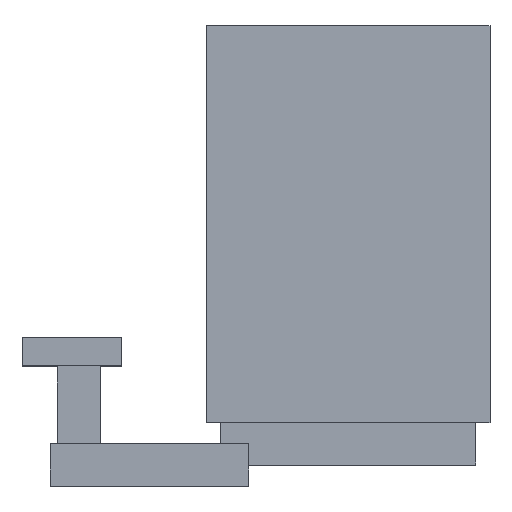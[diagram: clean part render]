
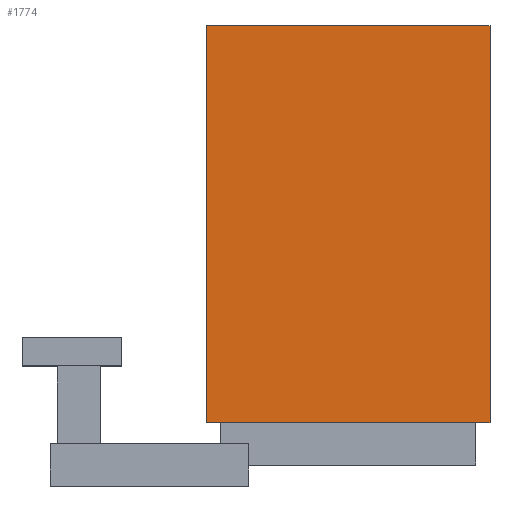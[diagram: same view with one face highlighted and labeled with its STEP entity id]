
A CAD part, top view. The second image highlights one B-rep face of the part: STEP entity #1774.
In plain terms, the highlighted planar face has unit normal (0, 0, 1).
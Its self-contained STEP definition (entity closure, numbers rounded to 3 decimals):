
#113 = VERTEX_POINT('',#114);
#114 = CARTESIAN_POINT('',(28.,9.,12.5));
#128 = PLANE('',#129);
#129 = AXIS2_PLACEMENT_3D('',#130,#131,#132);
#130 = CARTESIAN_POINT('',(26.,9.,8.));
#131 = DIRECTION('',(0.,-1.,0.));
#132 = DIRECTION('',(1.,0.,0.));
#156 = PLANE('',#157);
#157 = AXIS2_PLACEMENT_3D('',#158,#159,#160);
#158 = CARTESIAN_POINT('',(28.,9.,4.));
#159 = DIRECTION('',(0.,-1.,0.));
#160 = DIRECTION('',(1.,0.,0.));
#910 = EDGE_CURVE('',#113,#911,#913,.T.);
#911 = VERTEX_POINT('',#912);
#912 = CARTESIAN_POINT('',(64.,9.,12.5));
#913 = SURFACE_CURVE('',#914,(#918,#925),.PCURVE_S1.);
#914 = LINE('',#915,#916);
#915 = CARTESIAN_POINT('',(26.,9.,12.5));
#916 = VECTOR('',#917,1.);
#917 = DIRECTION('',(1.,0.,0.));
#918 = PCURVE('',#156,#919);
#919 = DEFINITIONAL_REPRESENTATION('',(#920),#924);
#920 = LINE('',#921,#922);
#921 = CARTESIAN_POINT('',(-2.,8.5));
#922 = VECTOR('',#923,1.);
#923 = DIRECTION('',(1.,0.));
#924 = ( GEOMETRIC_REPRESENTATION_CONTEXT(2) 
PARAMETRIC_REPRESENTATION_CONTEXT() REPRESENTATION_CONTEXT('2D SPACE',''
  ) );
#925 = PCURVE('',#926,#931);
#926 = PLANE('',#927);
#927 = AXIS2_PLACEMENT_3D('',#928,#929,#930);
#928 = CARTESIAN_POINT('',(26.,65.,12.5));
#929 = DIRECTION('',(0.,0.,1.));
#930 = DIRECTION('',(0.,-1.,0.));
#931 = DEFINITIONAL_REPRESENTATION('',(#932),#936);
#932 = LINE('',#933,#934);
#933 = CARTESIAN_POINT('',(56.,0.));
#934 = VECTOR('',#935,1.);
#935 = DIRECTION('',(0.,1.));
#936 = ( GEOMETRIC_REPRESENTATION_CONTEXT(2) 
PARAMETRIC_REPRESENTATION_CONTEXT() REPRESENTATION_CONTEXT('2D SPACE',''
  ) );
#1023 = EDGE_CURVE('',#1024,#113,#1026,.T.);
#1024 = VERTEX_POINT('',#1025);
#1025 = CARTESIAN_POINT('',(26.,9.,12.5));
#1026 = SURFACE_CURVE('',#1027,(#1031,#1038),.PCURVE_S1.);
#1027 = LINE('',#1028,#1029);
#1028 = CARTESIAN_POINT('',(26.,9.,12.5));
#1029 = VECTOR('',#1030,1.);
#1030 = DIRECTION('',(1.,0.,0.));
#1031 = PCURVE('',#128,#1032);
#1032 = DEFINITIONAL_REPRESENTATION('',(#1033),#1037);
#1033 = LINE('',#1034,#1035);
#1034 = CARTESIAN_POINT('',(0.,4.5));
#1035 = VECTOR('',#1036,1.);
#1036 = DIRECTION('',(1.,0.));
#1037 = ( GEOMETRIC_REPRESENTATION_CONTEXT(2) 
PARAMETRIC_REPRESENTATION_CONTEXT() REPRESENTATION_CONTEXT('2D SPACE',''
  ) );
#1038 = PCURVE('',#926,#1039);
#1039 = DEFINITIONAL_REPRESENTATION('',(#1040),#1044);
#1040 = LINE('',#1041,#1042);
#1041 = CARTESIAN_POINT('',(56.,0.));
#1042 = VECTOR('',#1043,1.);
#1043 = DIRECTION('',(0.,1.));
#1044 = ( GEOMETRIC_REPRESENTATION_CONTEXT(2) 
PARAMETRIC_REPRESENTATION_CONTEXT() REPRESENTATION_CONTEXT('2D SPACE',''
  ) );
#1062 = PLANE('',#1063);
#1063 = AXIS2_PLACEMENT_3D('',#1064,#1065,#1066);
#1064 = CARTESIAN_POINT('',(26.,65.,8.));
#1065 = DIRECTION('',(1.,0.,0.));
#1066 = DIRECTION('',(0.,-1.,0.));
#1398 = PLANE('',#1399);
#1399 = AXIS2_PLACEMENT_3D('',#1400,#1401,#1402);
#1400 = CARTESIAN_POINT('',(26.,9.,8.));
#1401 = DIRECTION('',(0.,-1.,0.));
#1402 = DIRECTION('',(1.,0.,0.));
#1774 = ADVANCED_FACE('',(#1775),#926,.T.);
#1775 = FACE_BOUND('',#1776,.T.);
#1776 = EDGE_LOOP('',(#1777,#1807,#1828,#1829,#1830,#1853));
#1777 = ORIENTED_EDGE('',*,*,#1778,.F.);
#1778 = EDGE_CURVE('',#1779,#1781,#1783,.T.);
#1779 = VERTEX_POINT('',#1780);
#1780 = CARTESIAN_POINT('',(26.,65.,12.5));
#1781 = VERTEX_POINT('',#1782);
#1782 = CARTESIAN_POINT('',(66.,65.,12.5));
#1783 = SURFACE_CURVE('',#1784,(#1788,#1795),.PCURVE_S1.);
#1784 = LINE('',#1785,#1786);
#1785 = CARTESIAN_POINT('',(26.,65.,12.5));
#1786 = VECTOR('',#1787,1.);
#1787 = DIRECTION('',(1.,0.,0.));
#1788 = PCURVE('',#926,#1789);
#1789 = DEFINITIONAL_REPRESENTATION('',(#1790),#1794);
#1790 = LINE('',#1791,#1792);
#1791 = CARTESIAN_POINT('',(0.,0.));
#1792 = VECTOR('',#1793,1.);
#1793 = DIRECTION('',(0.,1.));
#1794 = ( GEOMETRIC_REPRESENTATION_CONTEXT(2) 
PARAMETRIC_REPRESENTATION_CONTEXT() REPRESENTATION_CONTEXT('2D SPACE',''
  ) );
#1795 = PCURVE('',#1796,#1801);
#1796 = PLANE('',#1797);
#1797 = AXIS2_PLACEMENT_3D('',#1798,#1799,#1800);
#1798 = CARTESIAN_POINT('',(26.,65.,8.));
#1799 = DIRECTION('',(0.,-1.,0.));
#1800 = DIRECTION('',(1.,0.,0.));
#1801 = DEFINITIONAL_REPRESENTATION('',(#1802),#1806);
#1802 = LINE('',#1803,#1804);
#1803 = CARTESIAN_POINT('',(0.,4.5));
#1804 = VECTOR('',#1805,1.);
#1805 = DIRECTION('',(1.,0.));
#1806 = ( GEOMETRIC_REPRESENTATION_CONTEXT(2) 
PARAMETRIC_REPRESENTATION_CONTEXT() REPRESENTATION_CONTEXT('2D SPACE',''
  ) );
#1807 = ORIENTED_EDGE('',*,*,#1808,.T.);
#1808 = EDGE_CURVE('',#1779,#1024,#1809,.T.);
#1809 = SURFACE_CURVE('',#1810,(#1814,#1821),.PCURVE_S1.);
#1810 = LINE('',#1811,#1812);
#1811 = CARTESIAN_POINT('',(26.,65.,12.5));
#1812 = VECTOR('',#1813,1.);
#1813 = DIRECTION('',(0.,-1.,0.));
#1814 = PCURVE('',#926,#1815);
#1815 = DEFINITIONAL_REPRESENTATION('',(#1816),#1820);
#1816 = LINE('',#1817,#1818);
#1817 = CARTESIAN_POINT('',(0.,0.));
#1818 = VECTOR('',#1819,1.);
#1819 = DIRECTION('',(1.,0.));
#1820 = ( GEOMETRIC_REPRESENTATION_CONTEXT(2) 
PARAMETRIC_REPRESENTATION_CONTEXT() REPRESENTATION_CONTEXT('2D SPACE',''
  ) );
#1821 = PCURVE('',#1062,#1822);
#1822 = DEFINITIONAL_REPRESENTATION('',(#1823),#1827);
#1823 = LINE('',#1824,#1825);
#1824 = CARTESIAN_POINT('',(0.,-4.5));
#1825 = VECTOR('',#1826,1.);
#1826 = DIRECTION('',(1.,0.));
#1827 = ( GEOMETRIC_REPRESENTATION_CONTEXT(2) 
PARAMETRIC_REPRESENTATION_CONTEXT() REPRESENTATION_CONTEXT('2D SPACE',''
  ) );
#1828 = ORIENTED_EDGE('',*,*,#1023,.T.);
#1829 = ORIENTED_EDGE('',*,*,#910,.T.);
#1830 = ORIENTED_EDGE('',*,*,#1831,.T.);
#1831 = EDGE_CURVE('',#911,#1832,#1834,.T.);
#1832 = VERTEX_POINT('',#1833);
#1833 = CARTESIAN_POINT('',(66.,9.,12.5));
#1834 = SURFACE_CURVE('',#1835,(#1839,#1846),.PCURVE_S1.);
#1835 = LINE('',#1836,#1837);
#1836 = CARTESIAN_POINT('',(26.,9.,12.5));
#1837 = VECTOR('',#1838,1.);
#1838 = DIRECTION('',(1.,0.,0.));
#1839 = PCURVE('',#926,#1840);
#1840 = DEFINITIONAL_REPRESENTATION('',(#1841),#1845);
#1841 = LINE('',#1842,#1843);
#1842 = CARTESIAN_POINT('',(56.,0.));
#1843 = VECTOR('',#1844,1.);
#1844 = DIRECTION('',(0.,1.));
#1845 = ( GEOMETRIC_REPRESENTATION_CONTEXT(2) 
PARAMETRIC_REPRESENTATION_CONTEXT() REPRESENTATION_CONTEXT('2D SPACE',''
  ) );
#1846 = PCURVE('',#1398,#1847);
#1847 = DEFINITIONAL_REPRESENTATION('',(#1848),#1852);
#1848 = LINE('',#1849,#1850);
#1849 = CARTESIAN_POINT('',(0.,4.5));
#1850 = VECTOR('',#1851,1.);
#1851 = DIRECTION('',(1.,0.));
#1852 = ( GEOMETRIC_REPRESENTATION_CONTEXT(2) 
PARAMETRIC_REPRESENTATION_CONTEXT() REPRESENTATION_CONTEXT('2D SPACE',''
  ) );
#1853 = ORIENTED_EDGE('',*,*,#1854,.F.);
#1854 = EDGE_CURVE('',#1781,#1832,#1855,.T.);
#1855 = SURFACE_CURVE('',#1856,(#1860,#1867),.PCURVE_S1.);
#1856 = LINE('',#1857,#1858);
#1857 = CARTESIAN_POINT('',(66.,65.,12.5));
#1858 = VECTOR('',#1859,1.);
#1859 = DIRECTION('',(0.,-1.,0.));
#1860 = PCURVE('',#926,#1861);
#1861 = DEFINITIONAL_REPRESENTATION('',(#1862),#1866);
#1862 = LINE('',#1863,#1864);
#1863 = CARTESIAN_POINT('',(0.,40.));
#1864 = VECTOR('',#1865,1.);
#1865 = DIRECTION('',(1.,0.));
#1866 = ( GEOMETRIC_REPRESENTATION_CONTEXT(2) 
PARAMETRIC_REPRESENTATION_CONTEXT() REPRESENTATION_CONTEXT('2D SPACE',''
  ) );
#1867 = PCURVE('',#1868,#1873);
#1868 = PLANE('',#1869);
#1869 = AXIS2_PLACEMENT_3D('',#1870,#1871,#1872);
#1870 = CARTESIAN_POINT('',(66.,65.,8.));
#1871 = DIRECTION('',(1.,0.,0.));
#1872 = DIRECTION('',(0.,-1.,0.));
#1873 = DEFINITIONAL_REPRESENTATION('',(#1874),#1878);
#1874 = LINE('',#1875,#1876);
#1875 = CARTESIAN_POINT('',(0.,-4.5));
#1876 = VECTOR('',#1877,1.);
#1877 = DIRECTION('',(1.,0.));
#1878 = ( GEOMETRIC_REPRESENTATION_CONTEXT(2) 
PARAMETRIC_REPRESENTATION_CONTEXT() REPRESENTATION_CONTEXT('2D SPACE',''
  ) );
